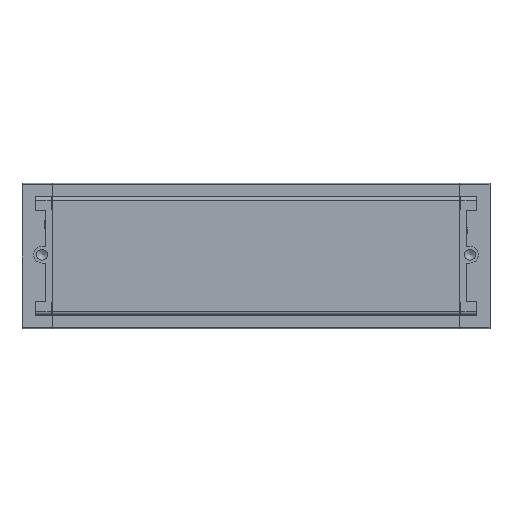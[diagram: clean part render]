
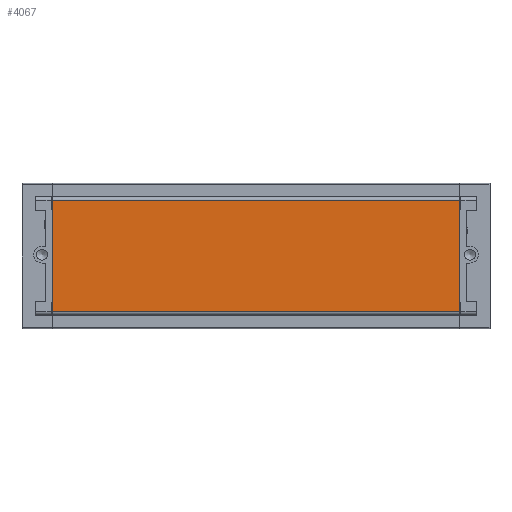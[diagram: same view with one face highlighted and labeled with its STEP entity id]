
A CAD part, front view. The second image highlights one B-rep face of the part: STEP entity #4067.
In plain terms, the highlighted planar face has unit normal (0, -1, 0).
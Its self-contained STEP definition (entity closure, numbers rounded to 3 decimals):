
#128=PLANE('',#4348);
#259=FACE_OUTER_BOUND('',#490,.T.);
#490=EDGE_LOOP('',(#2684,#2685,#2686,#2687));
#756=LINE('',#5987,#1156);
#757=LINE('',#5990,#1157);
#758=LINE('',#5992,#1158);
#759=LINE('',#5993,#1159);
#1156=VECTOR('',#4836,10.);
#1157=VECTOR('',#4839,10.);
#1158=VECTOR('',#4840,10.);
#1159=VECTOR('',#4841,10.);
#1686=VERTEX_POINT('',#5983);
#1687=VERTEX_POINT('',#5985);
#1688=VERTEX_POINT('',#5989);
#1689=VERTEX_POINT('',#5991);
#2076=EDGE_CURVE('',#1686,#1687,#756,.T.);
#2077=EDGE_CURVE('',#1688,#1686,#757,.T.);
#2078=EDGE_CURVE('',#1689,#1687,#758,.T.);
#2079=EDGE_CURVE('',#1688,#1689,#759,.T.);
#2684=ORIENTED_EDGE('',*,*,#2077,.T.);
#2685=ORIENTED_EDGE('',*,*,#2076,.T.);
#2686=ORIENTED_EDGE('',*,*,#2078,.F.);
#2687=ORIENTED_EDGE('',*,*,#2079,.F.);
#4067=ADVANCED_FACE('',(#259),#128,.T.);
#4348=AXIS2_PLACEMENT_3D('',#5988,#4837,#4838);
#4836=DIRECTION('',(1.,0.,0.));
#4837=DIRECTION('center_axis',(0.,-1.,0.));
#4838=DIRECTION('ref_axis',(0.,0.,-1.));
#4839=DIRECTION('',(0.,0.,-1.));
#4840=DIRECTION('',(0.,0.,-1.));
#4841=DIRECTION('',(1.,0.,0.));
#5983=CARTESIAN_POINT('',(0.,-25.597,-43.494));
#5985=CARTESIAN_POINT('',(122.,-25.597,-43.494));
#5987=CARTESIAN_POINT('',(0.,-25.597,-43.494));
#5988=CARTESIAN_POINT('Origin',(0.,-25.597,-10.094));
#5989=CARTESIAN_POINT('',(0.,-25.597,-10.094));
#5990=CARTESIAN_POINT('',(0.,-25.597,-10.094));
#5991=CARTESIAN_POINT('',(122.,-25.597,-10.094));
#5992=CARTESIAN_POINT('',(122.,-25.597,-10.094));
#5993=CARTESIAN_POINT('',(0.,-25.597,-10.094));
